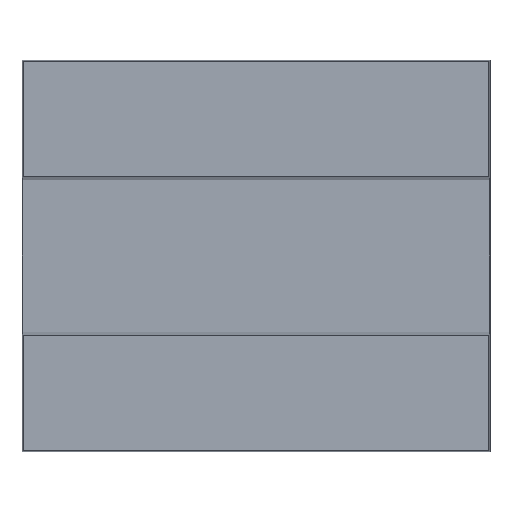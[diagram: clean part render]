
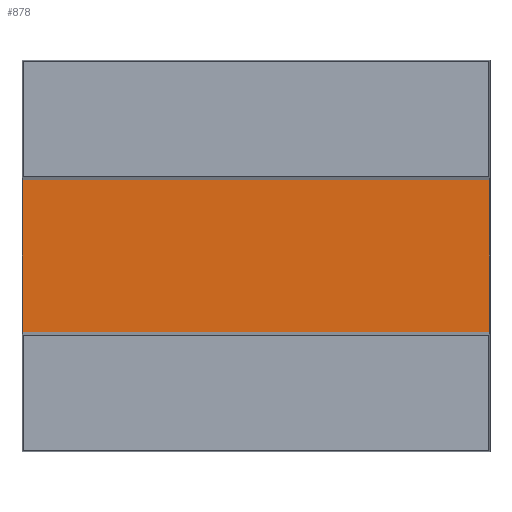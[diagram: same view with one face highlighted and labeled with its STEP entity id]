
A CAD part, front view. The second image highlights one B-rep face of the part: STEP entity #878.
In plain terms, the highlighted planar face has unit normal (0, -1, 0).
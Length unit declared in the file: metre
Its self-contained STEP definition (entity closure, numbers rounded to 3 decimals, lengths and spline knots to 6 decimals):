
#115=ORIENTED_EDGE('',*,*,#331,.T.);
#116=ORIENTED_EDGE('',*,*,#323,.T.);
#117=ORIENTED_EDGE('',*,*,#332,.F.);
#118=ORIENTED_EDGE('',*,*,#304,.F.);
#304=EDGE_CURVE('',#423,#424,#502,.F.);
#323=EDGE_CURVE('',#433,#436,#521,.T.);
#331=EDGE_CURVE('',#423,#433,#529,.T.);
#332=EDGE_CURVE('',#424,#436,#530,.T.);
#423=VERTEX_POINT('',#1267);
#424=VERTEX_POINT('',#1269);
#433=VERTEX_POINT('',#1294);
#436=VERTEX_POINT('',#1301);
#502=LINE('',#1268,#610);
#521=LINE('',#1302,#629);
#529=LINE('',#1316,#637);
#530=LINE('',#1318,#638);
#610=VECTOR('',#1045,1.);
#629=VECTOR('',#1068,1.);
#637=VECTOR('',#1084,1.);
#638=VECTOR('',#1087,1.);
#707=EDGE_LOOP('',(#115,#116,#117,#118));
#771=FACE_BOUND('',#707,.T.);
#835=PLANE('',#970);
#878=ADVANCED_FACE('',(#771),#835,.F.);
#970=AXIS2_PLACEMENT_3D('',#1319,#1088,#1089);
#1045=DIRECTION('',(0.,0.,1.));
#1068=DIRECTION('',(0.,0.,-1.));
#1084=DIRECTION('',(-1.,0.,0.));
#1087=DIRECTION('',(-1.,0.,0.));
#1088=DIRECTION('',(0.,1.,0.));
#1089=DIRECTION('',(0.,0.,1.));
#1267=CARTESIAN_POINT('',(0.053579,-0.0098,0.0175));
#1268=CARTESIAN_POINT('',(0.053579,-0.0098,-0.045));
#1269=CARTESIAN_POINT('',(0.053579,-0.0098,-0.0175));
#1294=CARTESIAN_POINT('',(-0.053579,-0.0098,0.0175));
#1301=CARTESIAN_POINT('',(-0.053579,-0.0098,-0.0175));
#1302=CARTESIAN_POINT('',(-0.053579,-0.0098,-0.045));
#1316=CARTESIAN_POINT('',(0.155342,-0.0098,0.0175));
#1318=CARTESIAN_POINT('',(0.155342,-0.0098,-0.0175));
#1319=CARTESIAN_POINT('',(0.155342,-0.0098,0.));
